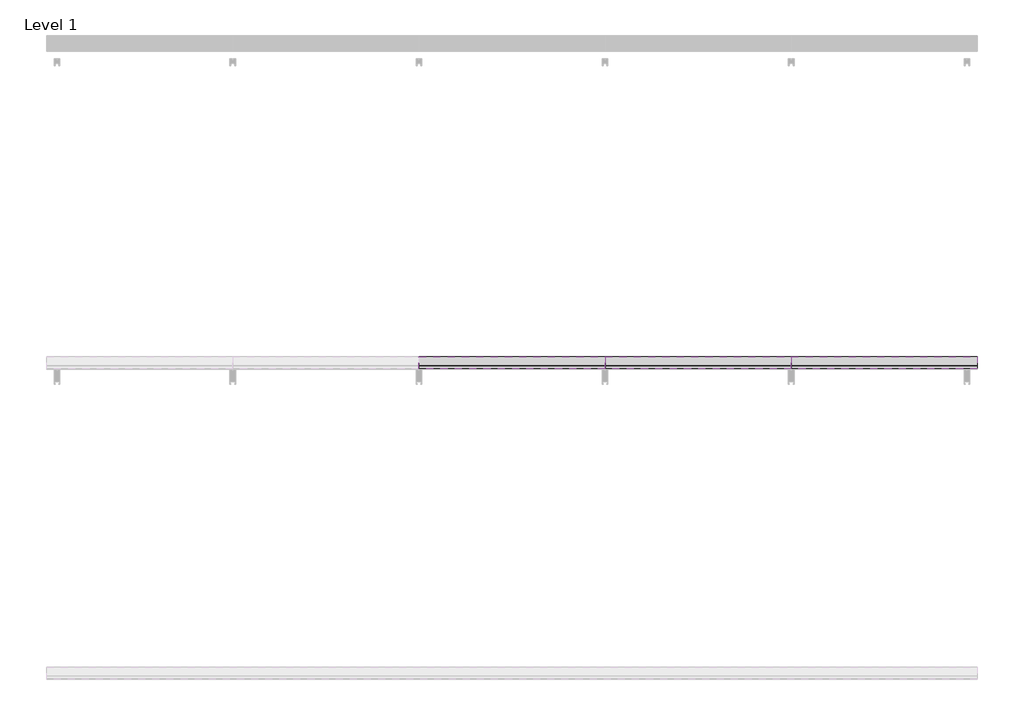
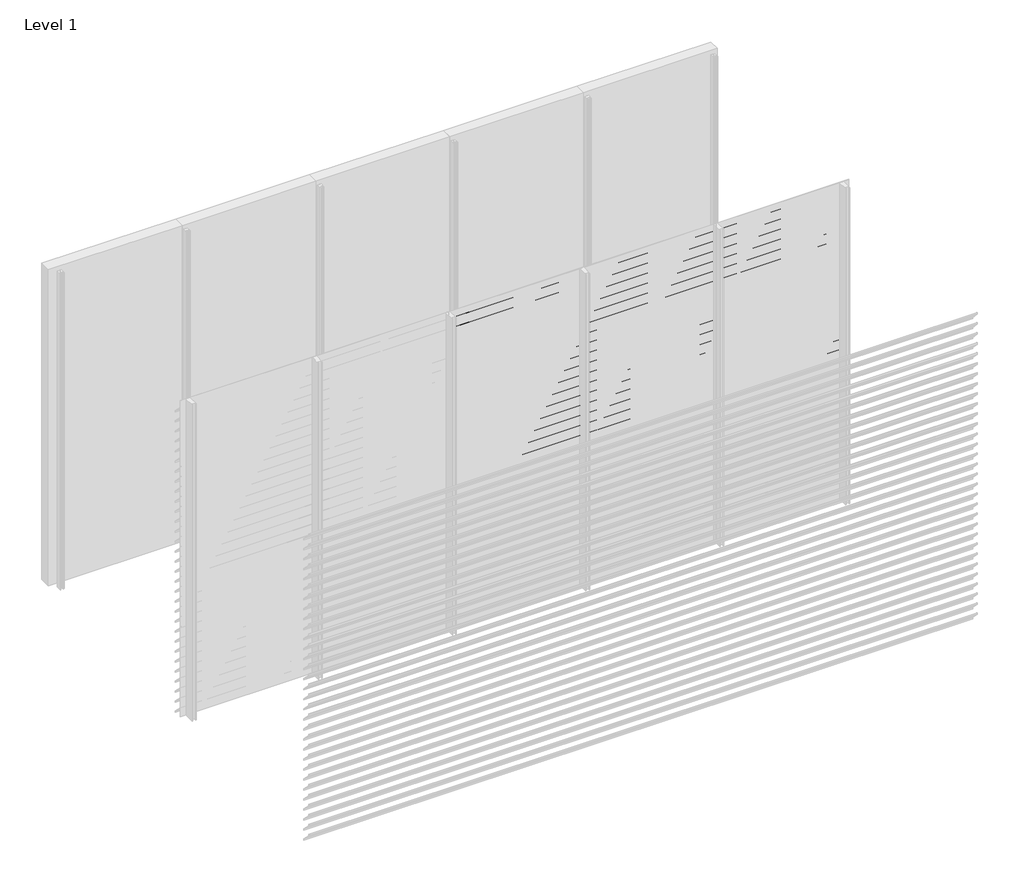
# One storey, part 17 of 24: 88 proxies.
"""IFC4 building model written with IfcOpenShell, lengths in millimetres."""

from ifc_helpers import new_model, si_unit, frame, origin, place, context, project, spatial, polyline, outline, extrude, element, save

model = new_model("IFC4")

# Units and contexts
model_context = context("Model", 3, world=origin())
ifc_project = project(units=[si_unit("LENGTHUNIT", "METRE", prefix="MILLI")], contexts=[model_context])

# Site, building, storey
site = spatial("IfcSite", under=ifc_project)
building = spatial("IfcBuilding", under=site)
storey = spatial("IfcBuildingStorey", under=building, Name="Level 1", Elevation=0.0)

# Proxies
placement = place(None, origin())
element("IfcBuildingElementProxy", 1, Name="Wall Sweeps", at=placement, inside=storey, context=model_context, shape_type="SweptSolid", body=[
    extrude(outline(polyline([(-17920.8, 182.9), (-17922.3, 182.9), (-17922.3, 195.1762333), (-17998.0, 270.4561238), (-17998.0, 285.0), (-17996.5, 285.0), (-17996.5, 271.0798905), (-17920.8, 195.8), (-17920.8, 182.9)])), frame((1200.0, 0.0, 0.0), z_axis=(1.0, 0.0, 0.0), x_axis=(0.0, 1.0, 0.0)), (0.0, 0.0, 1.0), 1200.0),
])
element("IfcBuildingElementProxy", 2, Name="Wall Sweeps", at=placement, inside=storey, context=model_context, shape_type="SweptSolid", body=[
    extrude(outline(polyline([(-17920.8, 87.9), (-17922.3, 87.9), (-17922.3, 100.1762333), (-17998.0, 175.4561238), (-17998.0, 190.0), (-17996.5, 190.0), (-17996.5, 176.0798905), (-17920.8, 100.8), (-17920.8, 87.9)])), frame((1200.0, 0.0, 0.0), z_axis=(1.0, 0.0, 0.0), x_axis=(0.0, 1.0, 0.0)), (0.0, 0.0, 1.0), 1200.0),
])
element("IfcBuildingElementProxy", 3, Name="Wall Sweeps", at=placement, inside=storey, context=model_context, shape_type="SweptSolid", body=[
    extrude(outline(polyline([(-17920.8, -7.1), (-17922.3, -7.1), (-17922.3, 5.1762333), (-17998.0, 80.4561238), (-17998.0, 95.0), (-17996.5, 95.0), (-17996.5, 81.0798905), (-17920.8, 5.8), (-17920.8, -7.1)])), frame((1200.0, 0.0, 0.0), z_axis=(1.0, 0.0, 0.0), x_axis=(0.0, 1.0, 0.0)), (0.0, 0.0, 1.0), 1200.0),
])
element("IfcBuildingElementProxy", 4, Name="Wall Sweeps", at=placement, inside=storey, context=model_context, shape_type="SweptSolid", body=[
    extrude(outline(polyline([(-17920.8, 2842.9), (-17922.3, 2842.9), (-17922.3, 2855.1762333), (-17998.0, 2930.4561238), (-17998.0, 2945.0), (-17996.5, 2945.0), (-17996.5, 2931.0798905), (-17920.8, 2855.8), (-17920.8, 2842.9)])), frame((2400.0, 0.0, 0.0), z_axis=(1.0, 0.0, 0.0), x_axis=(0.0, 1.0, 0.0)), (0.0, 0.0, 1.0), 1200.0),
])
element("IfcBuildingElementProxy", 5, Name="Wall Sweeps", at=placement, inside=storey, context=model_context, shape_type="SweptSolid", body=[
    extrude(outline(polyline([(-17920.8, 2747.9), (-17922.3, 2747.9), (-17922.3, 2760.1762333), (-17998.0, 2835.4561238), (-17998.0, 2850.0), (-17996.5, 2850.0), (-17996.5, 2836.0798905), (-17920.8, 2760.8), (-17920.8, 2747.9)])), frame((2400.0, 0.0, 0.0), z_axis=(1.0, 0.0, 0.0), x_axis=(0.0, 1.0, 0.0)), (0.0, 0.0, 1.0), 1200.0),
])
element("IfcBuildingElementProxy", 6, Name="Wall Sweeps", at=placement, inside=storey, context=model_context, shape_type="SweptSolid", body=[
    extrude(outline(polyline([(-17920.8, 2652.9), (-17922.3, 2652.9), (-17922.3, 2665.1762333), (-17998.0, 2740.4561238), (-17998.0, 2755.0), (-17996.5, 2755.0), (-17996.5, 2741.0798905), (-17920.8, 2665.8), (-17920.8, 2652.9)])), frame((2400.0, 0.0, 0.0), z_axis=(1.0, 0.0, 0.0), x_axis=(0.0, 1.0, 0.0)), (0.0, 0.0, 1.0), 1200.0),
])
element("IfcBuildingElementProxy", 7, Name="Wall Sweeps", at=placement, inside=storey, context=model_context, shape_type="SweptSolid", body=[
    extrude(outline(polyline([(-17920.8, 2557.9), (-17922.3, 2557.9), (-17922.3, 2570.1762333), (-17998.0, 2645.4561238), (-17998.0, 2660.0), (-17996.5, 2660.0), (-17996.5, 2646.0798905), (-17920.8, 2570.8), (-17920.8, 2557.9)])), frame((2400.0, 0.0, 0.0), z_axis=(1.0, 0.0, 0.0), x_axis=(0.0, 1.0, 0.0)), (0.0, 0.0, 1.0), 1200.0),
])
element("IfcBuildingElementProxy", 8, Name="Wall Sweeps", at=placement, inside=storey, context=model_context, shape_type="SweptSolid", body=[
    extrude(outline(polyline([(-17920.8, 2462.9), (-17922.3, 2462.9), (-17922.3, 2475.1762333), (-17998.0, 2550.4561238), (-17998.0, 2565.0), (-17996.5, 2565.0), (-17996.5, 2551.0798905), (-17920.8, 2475.8), (-17920.8, 2462.9)])), frame((2400.0, 0.0, 0.0), z_axis=(1.0, 0.0, 0.0), x_axis=(0.0, 1.0, 0.0)), (0.0, 0.0, 1.0), 1200.0),
])
element("IfcBuildingElementProxy", 9, Name="Wall Sweeps", at=placement, inside=storey, context=model_context, shape_type="SweptSolid", body=[
    extrude(outline(polyline([(-17920.8, 2367.9), (-17922.3, 2367.9), (-17922.3, 2380.1762333), (-17998.0, 2455.4561238), (-17998.0, 2470.0), (-17996.5, 2470.0), (-17996.5, 2456.0798905), (-17920.8, 2380.8), (-17920.8, 2367.9)])), frame((2400.0, 0.0, 0.0), z_axis=(1.0, 0.0, 0.0), x_axis=(0.0, 1.0, 0.0)), (0.0, 0.0, 1.0), 1200.0),
])
element("IfcBuildingElementProxy", 10, Name="Wall Sweeps", at=placement, inside=storey, context=model_context, shape_type="SweptSolid", body=[
    extrude(outline(polyline([(-17920.8, 2272.9), (-17922.3, 2272.9), (-17922.3, 2285.1762333), (-17998.0, 2360.4561238), (-17998.0, 2375.0), (-17996.5, 2375.0), (-17996.5, 2361.0798905), (-17920.8, 2285.8), (-17920.8, 2272.9)])), frame((2400.0, 0.0, 0.0), z_axis=(1.0, 0.0, 0.0), x_axis=(0.0, 1.0, 0.0)), (0.0, 0.0, 1.0), 1200.0),
])
element("IfcBuildingElementProxy", 11, Name="Wall Sweeps", at=placement, inside=storey, context=model_context, shape_type="SweptSolid", body=[
    extrude(outline(polyline([(-17920.8, 2177.9), (-17922.3, 2177.9), (-17922.3, 2190.1762333), (-17998.0, 2265.4561238), (-17998.0, 2280.0), (-17996.5, 2280.0), (-17996.5, 2266.0798905), (-17920.8, 2190.8), (-17920.8, 2177.9)])), frame((2400.0, 0.0, 0.0), z_axis=(1.0, 0.0, 0.0), x_axis=(0.0, 1.0, 0.0)), (0.0, 0.0, 1.0), 1200.0),
])
element("IfcBuildingElementProxy", 12, Name="Wall Sweeps", at=placement, inside=storey, context=model_context, shape_type="SweptSolid", body=[
    extrude(outline(polyline([(-17920.8, 2082.9), (-17922.3, 2082.9), (-17922.3, 2095.1762333), (-17998.0, 2170.4561238), (-17998.0, 2185.0), (-17996.5, 2185.0), (-17996.5, 2171.0798905), (-17920.8, 2095.8), (-17920.8, 2082.9)])), frame((2400.0, 0.0, 0.0), z_axis=(1.0, 0.0, 0.0), x_axis=(0.0, 1.0, 0.0)), (0.0, 0.0, 1.0), 1200.0),
])
element("IfcBuildingElementProxy", 13, Name="Wall Sweeps", at=placement, inside=storey, context=model_context, shape_type="SweptSolid", body=[
    extrude(outline(polyline([(-17920.8, 1987.9), (-17922.3, 1987.9), (-17922.3, 2000.1762333), (-17998.0, 2075.4561238), (-17998.0, 2090.0), (-17996.5, 2090.0), (-17996.5, 2076.0798905), (-17920.8, 2000.8), (-17920.8, 1987.9)])), frame((2400.0, 0.0, 0.0), z_axis=(1.0, 0.0, 0.0), x_axis=(0.0, 1.0, 0.0)), (0.0, 0.0, 1.0), 1200.0),
])
element("IfcBuildingElementProxy", 14, Name="Wall Sweeps", at=placement, inside=storey, context=model_context, shape_type="SweptSolid", body=[
    extrude(outline(polyline([(-17920.8, 1892.9), (-17922.3, 1892.9), (-17922.3, 1905.1762333), (-17998.0, 1980.4561238), (-17998.0, 1995.0), (-17996.5, 1995.0), (-17996.5, 1981.0798905), (-17920.8, 1905.8), (-17920.8, 1892.9)])), frame((2400.0, 0.0, 0.0), z_axis=(1.0, 0.0, 0.0), x_axis=(0.0, 1.0, 0.0)), (0.0, 0.0, 1.0), 1200.0),
])
element("IfcBuildingElementProxy", 15, Name="Wall Sweeps", at=placement, inside=storey, context=model_context, shape_type="SweptSolid", body=[
    extrude(outline(polyline([(-17920.8, 1797.9), (-17922.3, 1797.9), (-17922.3, 1810.1762333), (-17998.0, 1885.4561238), (-17998.0, 1900.0), (-17996.5, 1900.0), (-17996.5, 1886.0798905), (-17920.8, 1810.8), (-17920.8, 1797.9)])), frame((2400.0, 0.0, 0.0), z_axis=(1.0, 0.0, 0.0), x_axis=(0.0, 1.0, 0.0)), (0.0, 0.0, 1.0), 1200.0),
])
element("IfcBuildingElementProxy", 16, Name="Wall Sweeps", at=placement, inside=storey, context=model_context, shape_type="SweptSolid", body=[
    extrude(outline(polyline([(-17920.8, 1702.9), (-17922.3, 1702.9), (-17922.3, 1715.1762333), (-17998.0, 1790.4561238), (-17998.0, 1805.0), (-17996.5, 1805.0), (-17996.5, 1791.0798905), (-17920.8, 1715.8), (-17920.8, 1702.9)])), frame((2400.0, 0.0, 0.0), z_axis=(1.0, 0.0, 0.0), x_axis=(0.0, 1.0, 0.0)), (0.0, 0.0, 1.0), 1200.0),
])
element("IfcBuildingElementProxy", 17, Name="Wall Sweeps", at=placement, inside=storey, context=model_context, shape_type="SweptSolid", body=[
    extrude(outline(polyline([(-17920.8, 1607.9), (-17922.3, 1607.9), (-17922.3, 1620.1762333), (-17998.0, 1695.4561238), (-17998.0, 1710.0), (-17996.5, 1710.0), (-17996.5, 1696.0798905), (-17920.8, 1620.8), (-17920.8, 1607.9)])), frame((2400.0, 0.0, 0.0), z_axis=(1.0, 0.0, 0.0), x_axis=(0.0, 1.0, 0.0)), (0.0, 0.0, 1.0), 1200.0),
])
element("IfcBuildingElementProxy", 18, Name="Wall Sweeps", at=placement, inside=storey, context=model_context, shape_type="SweptSolid", body=[
    extrude(outline(polyline([(-17920.8, 1512.9), (-17922.3, 1512.9), (-17922.3, 1525.1762333), (-17998.0, 1600.4561238), (-17998.0, 1615.0), (-17996.5, 1615.0), (-17996.5, 1601.0798905), (-17920.8, 1525.8), (-17920.8, 1512.9)])), frame((2400.0, 0.0, 0.0), z_axis=(1.0, 0.0, 0.0), x_axis=(0.0, 1.0, 0.0)), (0.0, 0.0, 1.0), 1200.0),
])
element("IfcBuildingElementProxy", 19, Name="Wall Sweeps", at=placement, inside=storey, context=model_context, shape_type="SweptSolid", body=[
    extrude(outline(polyline([(-17920.8, 1417.9), (-17922.3, 1417.9), (-17922.3, 1430.1762333), (-17998.0, 1505.4561238), (-17998.0, 1520.0), (-17996.5, 1520.0), (-17996.5, 1506.0798905), (-17920.8, 1430.8), (-17920.8, 1417.9)])), frame((2400.0, 0.0, 0.0), z_axis=(1.0, 0.0, 0.0), x_axis=(0.0, 1.0, 0.0)), (0.0, 0.0, 1.0), 1200.0),
])
element("IfcBuildingElementProxy", 20, Name="Wall Sweeps", at=placement, inside=storey, context=model_context, shape_type="SweptSolid", body=[
    extrude(outline(polyline([(-17920.8, 1322.9), (-17922.3, 1322.9), (-17922.3, 1335.1762333), (-17998.0, 1410.4561238), (-17998.0, 1425.0), (-17996.5, 1425.0), (-17996.5, 1411.0798905), (-17920.8, 1335.8), (-17920.8, 1322.9)])), frame((2400.0, 0.0, 0.0), z_axis=(1.0, 0.0, 0.0), x_axis=(0.0, 1.0, 0.0)), (0.0, 0.0, 1.0), 1200.0),
])
element("IfcBuildingElementProxy", 21, Name="Wall Sweeps", at=placement, inside=storey, context=model_context, shape_type="SweptSolid", body=[
    extrude(outline(polyline([(-17920.8, 1227.9), (-17922.3, 1227.9), (-17922.3, 1240.1762333), (-17998.0, 1315.4561238), (-17998.0, 1330.0), (-17996.5, 1330.0), (-17996.5, 1316.0798905), (-17920.8, 1240.8), (-17920.8, 1227.9)])), frame((2400.0, 0.0, 0.0), z_axis=(1.0, 0.0, 0.0), x_axis=(0.0, 1.0, 0.0)), (0.0, 0.0, 1.0), 1200.0),
])
element("IfcBuildingElementProxy", 22, Name="Wall Sweeps", at=placement, inside=storey, context=model_context, shape_type="SweptSolid", body=[
    extrude(outline(polyline([(-17920.8, 1132.9), (-17922.3, 1132.9), (-17922.3, 1145.1762333), (-17998.0, 1220.4561238), (-17998.0, 1235.0), (-17996.5, 1235.0), (-17996.5, 1221.0798905), (-17920.8, 1145.8), (-17920.8, 1132.9)])), frame((2400.0, 0.0, 0.0), z_axis=(1.0, 0.0, 0.0), x_axis=(0.0, 1.0, 0.0)), (0.0, 0.0, 1.0), 1200.0),
])
element("IfcBuildingElementProxy", 23, Name="Wall Sweeps", at=placement, inside=storey, context=model_context, shape_type="SweptSolid", body=[
    extrude(outline(polyline([(-17920.8, 1037.9), (-17922.3, 1037.9), (-17922.3, 1050.1762333), (-17998.0, 1125.4561238), (-17998.0, 1140.0), (-17996.5, 1140.0), (-17996.5, 1126.0798905), (-17920.8, 1050.8), (-17920.8, 1037.9)])), frame((2400.0, 0.0, 0.0), z_axis=(1.0, 0.0, 0.0), x_axis=(0.0, 1.0, 0.0)), (0.0, 0.0, 1.0), 1200.0),
])
element("IfcBuildingElementProxy", 24, Name="Wall Sweeps", at=placement, inside=storey, context=model_context, shape_type="SweptSolid", body=[
    extrude(outline(polyline([(-17920.8, 942.9), (-17922.3, 942.9), (-17922.3, 955.1762333), (-17998.0, 1030.4561238), (-17998.0, 1045.0), (-17996.5, 1045.0), (-17996.5, 1031.0798905), (-17920.8, 955.8), (-17920.8, 942.9)])), frame((2400.0, 0.0, 0.0), z_axis=(1.0, 0.0, 0.0), x_axis=(0.0, 1.0, 0.0)), (0.0, 0.0, 1.0), 1200.0),
])
element("IfcBuildingElementProxy", 25, Name="Wall Sweeps", at=placement, inside=storey, context=model_context, shape_type="SweptSolid", body=[
    extrude(outline(polyline([(-17920.8, 847.9), (-17922.3, 847.9), (-17922.3, 860.1762333), (-17998.0, 935.4561238), (-17998.0, 950.0), (-17996.5, 950.0), (-17996.5, 936.0798905), (-17920.8, 860.8), (-17920.8, 847.9)])), frame((2400.0, 0.0, 0.0), z_axis=(1.0, 0.0, 0.0), x_axis=(0.0, 1.0, 0.0)), (0.0, 0.0, 1.0), 1200.0),
])
element("IfcBuildingElementProxy", 26, Name="Wall Sweeps", at=placement, inside=storey, context=model_context, shape_type="SweptSolid", body=[
    extrude(outline(polyline([(-17920.8, 752.9), (-17922.3, 752.9), (-17922.3, 765.1762333), (-17998.0, 840.4561238), (-17998.0, 855.0), (-17996.5, 855.0), (-17996.5, 841.0798905), (-17920.8, 765.8), (-17920.8, 752.9)])), frame((2400.0, 0.0, 0.0), z_axis=(1.0, 0.0, 0.0), x_axis=(0.0, 1.0, 0.0)), (0.0, 0.0, 1.0), 1200.0),
])
element("IfcBuildingElementProxy", 27, Name="Wall Sweeps", at=placement, inside=storey, context=model_context, shape_type="SweptSolid", body=[
    extrude(outline(polyline([(-17920.8, 657.9), (-17922.3, 657.9), (-17922.3, 670.1762333), (-17998.0, 745.4561238), (-17998.0, 760.0), (-17996.5, 760.0), (-17996.5, 746.0798905), (-17920.8, 670.8), (-17920.8, 657.9)])), frame((2400.0, 0.0, 0.0), z_axis=(1.0, 0.0, 0.0), x_axis=(0.0, 1.0, 0.0)), (0.0, 0.0, 1.0), 1200.0),
])
element("IfcBuildingElementProxy", 28, Name="Wall Sweeps", at=placement, inside=storey, context=model_context, shape_type="SweptSolid", body=[
    extrude(outline(polyline([(-17920.8, 562.9), (-17922.3, 562.9), (-17922.3, 575.1762333), (-17998.0, 650.4561238), (-17998.0, 665.0), (-17996.5, 665.0), (-17996.5, 651.0798905), (-17920.8, 575.8), (-17920.8, 562.9)])), frame((2400.0, 0.0, 0.0), z_axis=(1.0, 0.0, 0.0), x_axis=(0.0, 1.0, 0.0)), (0.0, 0.0, 1.0), 1200.0),
])
element("IfcBuildingElementProxy", 29, Name="Wall Sweeps", at=placement, inside=storey, context=model_context, shape_type="SweptSolid", body=[
    extrude(outline(polyline([(-17920.8, 467.9), (-17922.3, 467.9), (-17922.3, 480.1762333), (-17998.0, 555.4561238), (-17998.0, 570.0), (-17996.5, 570.0), (-17996.5, 556.0798905), (-17920.8, 480.8), (-17920.8, 467.9)])), frame((2400.0, 0.0, 0.0), z_axis=(1.0, 0.0, 0.0), x_axis=(0.0, 1.0, 0.0)), (0.0, 0.0, 1.0), 1200.0),
])
element("IfcBuildingElementProxy", 30, Name="Wall Sweeps", at=placement, inside=storey, context=model_context, shape_type="SweptSolid", body=[
    extrude(outline(polyline([(-17920.8, 372.9), (-17922.3, 372.9), (-17922.3, 385.1762333), (-17998.0, 460.4561238), (-17998.0, 475.0), (-17996.5, 475.0), (-17996.5, 461.0798905), (-17920.8, 385.8), (-17920.8, 372.9)])), frame((2400.0, 0.0, 0.0), z_axis=(1.0, 0.0, 0.0), x_axis=(0.0, 1.0, 0.0)), (0.0, 0.0, 1.0), 1200.0),
])
element("IfcBuildingElementProxy", 31, Name="Wall Sweeps", at=placement, inside=storey, context=model_context, shape_type="SweptSolid", body=[
    extrude(outline(polyline([(-17920.8, 277.9), (-17922.3, 277.9), (-17922.3, 290.1762333), (-17998.0, 365.4561238), (-17998.0, 380.0), (-17996.5, 380.0), (-17996.5, 366.0798905), (-17920.8, 290.8), (-17920.8, 277.9)])), frame((2400.0, 0.0, 0.0), z_axis=(1.0, 0.0, 0.0), x_axis=(0.0, 1.0, 0.0)), (0.0, 0.0, 1.0), 1200.0),
])
element("IfcBuildingElementProxy", 32, Name="Wall Sweeps", at=placement, inside=storey, context=model_context, shape_type="SweptSolid", body=[
    extrude(outline(polyline([(-17920.8, 182.9), (-17922.3, 182.9), (-17922.3, 195.1762333), (-17998.0, 270.4561238), (-17998.0, 285.0), (-17996.5, 285.0), (-17996.5, 271.0798905), (-17920.8, 195.8), (-17920.8, 182.9)])), frame((2400.0, 0.0, 0.0), z_axis=(1.0, 0.0, 0.0), x_axis=(0.0, 1.0, 0.0)), (0.0, 0.0, 1.0), 1200.0),
])
element("IfcBuildingElementProxy", 33, Name="Wall Sweeps", at=placement, inside=storey, context=model_context, shape_type="SweptSolid", body=[
    extrude(outline(polyline([(-17920.8, 87.9), (-17922.3, 87.9), (-17922.3, 100.1762333), (-17998.0, 175.4561238), (-17998.0, 190.0), (-17996.5, 190.0), (-17996.5, 176.0798905), (-17920.8, 100.8), (-17920.8, 87.9)])), frame((2400.0, 0.0, 0.0), z_axis=(1.0, 0.0, 0.0), x_axis=(0.0, 1.0, 0.0)), (0.0, 0.0, 1.0), 1200.0),
])
element("IfcBuildingElementProxy", 34, Name="Wall Sweeps", at=placement, inside=storey, context=model_context, shape_type="SweptSolid", body=[
    extrude(outline(polyline([(-17920.8, -7.1), (-17922.3, -7.1), (-17922.3, 5.1762333), (-17998.0, 80.4561238), (-17998.0, 95.0), (-17996.5, 95.0), (-17996.5, 81.0798905), (-17920.8, 5.8), (-17920.8, -7.1)])), frame((2400.0, 0.0, 0.0), z_axis=(1.0, 0.0, 0.0), x_axis=(0.0, 1.0, 0.0)), (0.0, 0.0, 1.0), 1200.0),
])
element("IfcBuildingElementProxy", 35, Name="Wall Sweeps", at=placement, inside=storey, context=model_context, shape_type="SweptSolid", body=[
    extrude(outline(polyline([(-17920.8, 2842.9), (-17922.3, 2842.9), (-17922.3, 2855.1762333), (-17998.0, 2930.4561238), (-17998.0, 2945.0), (-17996.5, 2945.0), (-17996.5, 2931.0798905), (-17920.8, 2855.8), (-17920.8, 2842.9)])), frame((3600.0, 0.0, 0.0), z_axis=(1.0, 0.0, 0.0), x_axis=(0.0, 1.0, 0.0)), (0.0, 0.0, 1.0), 1200.0),
])
element("IfcBuildingElementProxy", 36, Name="Wall Sweeps", at=placement, inside=storey, context=model_context, shape_type="SweptSolid", body=[
    extrude(outline(polyline([(-17920.8, 2747.9), (-17922.3, 2747.9), (-17922.3, 2760.1762333), (-17998.0, 2835.4561238), (-17998.0, 2850.0), (-17996.5, 2850.0), (-17996.5, 2836.0798905), (-17920.8, 2760.8), (-17920.8, 2747.9)])), frame((3600.0, 0.0, 0.0), z_axis=(1.0, 0.0, 0.0), x_axis=(0.0, 1.0, 0.0)), (0.0, 0.0, 1.0), 1200.0),
])
element("IfcBuildingElementProxy", 37, Name="Wall Sweeps", at=placement, inside=storey, context=model_context, shape_type="SweptSolid", body=[
    extrude(outline(polyline([(-17920.8, 2652.9), (-17922.3, 2652.9), (-17922.3, 2665.1762333), (-17998.0, 2740.4561238), (-17998.0, 2755.0), (-17996.5, 2755.0), (-17996.5, 2741.0798905), (-17920.8, 2665.8), (-17920.8, 2652.9)])), frame((3600.0, 0.0, 0.0), z_axis=(1.0, 0.0, 0.0), x_axis=(0.0, 1.0, 0.0)), (0.0, 0.0, 1.0), 1200.0),
])
element("IfcBuildingElementProxy", 38, Name="Wall Sweeps", at=placement, inside=storey, context=model_context, shape_type="SweptSolid", body=[
    extrude(outline(polyline([(-17920.8, 2557.9), (-17922.3, 2557.9), (-17922.3, 2570.1762333), (-17998.0, 2645.4561238), (-17998.0, 2660.0), (-17996.5, 2660.0), (-17996.5, 2646.0798905), (-17920.8, 2570.8), (-17920.8, 2557.9)])), frame((3600.0, 0.0, 0.0), z_axis=(1.0, 0.0, 0.0), x_axis=(0.0, 1.0, 0.0)), (0.0, 0.0, 1.0), 1200.0),
])
element("IfcBuildingElementProxy", 39, Name="Wall Sweeps", at=placement, inside=storey, context=model_context, shape_type="SweptSolid", body=[
    extrude(outline(polyline([(-17920.8, 2462.9), (-17922.3, 2462.9), (-17922.3, 2475.1762333), (-17998.0, 2550.4561238), (-17998.0, 2565.0), (-17996.5, 2565.0), (-17996.5, 2551.0798905), (-17920.8, 2475.8), (-17920.8, 2462.9)])), frame((3600.0, 0.0, 0.0), z_axis=(1.0, 0.0, 0.0), x_axis=(0.0, 1.0, 0.0)), (0.0, 0.0, 1.0), 1200.0),
])
element("IfcBuildingElementProxy", 40, Name="Wall Sweeps", at=placement, inside=storey, context=model_context, shape_type="SweptSolid", body=[
    extrude(outline(polyline([(-17920.8, 2367.9), (-17922.3, 2367.9), (-17922.3, 2380.1762333), (-17998.0, 2455.4561238), (-17998.0, 2470.0), (-17996.5, 2470.0), (-17996.5, 2456.0798905), (-17920.8, 2380.8), (-17920.8, 2367.9)])), frame((3600.0, 0.0, 0.0), z_axis=(1.0, 0.0, 0.0), x_axis=(0.0, 1.0, 0.0)), (0.0, 0.0, 1.0), 1200.0),
])
element("IfcBuildingElementProxy", 41, Name="Wall Sweeps", at=placement, inside=storey, context=model_context, shape_type="SweptSolid", body=[
    extrude(outline(polyline([(-17920.8, 2272.9), (-17922.3, 2272.9), (-17922.3, 2285.1762333), (-17998.0, 2360.4561238), (-17998.0, 2375.0), (-17996.5, 2375.0), (-17996.5, 2361.0798905), (-17920.8, 2285.8), (-17920.8, 2272.9)])), frame((3600.0, 0.0, 0.0), z_axis=(1.0, 0.0, 0.0), x_axis=(0.0, 1.0, 0.0)), (0.0, 0.0, 1.0), 1200.0),
])
element("IfcBuildingElementProxy", 42, Name="Wall Sweeps", at=placement, inside=storey, context=model_context, shape_type="SweptSolid", body=[
    extrude(outline(polyline([(-17920.8, 2177.9), (-17922.3, 2177.9), (-17922.3, 2190.1762333), (-17998.0, 2265.4561238), (-17998.0, 2280.0), (-17996.5, 2280.0), (-17996.5, 2266.0798905), (-17920.8, 2190.8), (-17920.8, 2177.9)])), frame((3600.0, 0.0, 0.0), z_axis=(1.0, 0.0, 0.0), x_axis=(0.0, 1.0, 0.0)), (0.0, 0.0, 1.0), 1200.0),
])
element("IfcBuildingElementProxy", 43, Name="Wall Sweeps", at=placement, inside=storey, context=model_context, shape_type="SweptSolid", body=[
    extrude(outline(polyline([(-17920.8, 2082.9), (-17922.3, 2082.9), (-17922.3, 2095.1762333), (-17998.0, 2170.4561238), (-17998.0, 2185.0), (-17996.5, 2185.0), (-17996.5, 2171.0798905), (-17920.8, 2095.8), (-17920.8, 2082.9)])), frame((3600.0, 0.0, 0.0), z_axis=(1.0, 0.0, 0.0), x_axis=(0.0, 1.0, 0.0)), (0.0, 0.0, 1.0), 1200.0),
])
element("IfcBuildingElementProxy", 44, Name="Wall Sweeps", at=placement, inside=storey, context=model_context, shape_type="SweptSolid", body=[
    extrude(outline(polyline([(-17920.8, 1987.9), (-17922.3, 1987.9), (-17922.3, 2000.1762333), (-17998.0, 2075.4561238), (-17998.0, 2090.0), (-17996.5, 2090.0), (-17996.5, 2076.0798905), (-17920.8, 2000.8), (-17920.8, 1987.9)])), frame((3600.0, 0.0, 0.0), z_axis=(1.0, 0.0, 0.0), x_axis=(0.0, 1.0, 0.0)), (0.0, 0.0, 1.0), 1200.0),
])
element("IfcBuildingElementProxy", 45, Name="Wall Sweeps", at=placement, inside=storey, context=model_context, shape_type="SweptSolid", body=[
    extrude(outline(polyline([(-17920.8, 1892.9), (-17922.3, 1892.9), (-17922.3, 1905.1762333), (-17998.0, 1980.4561238), (-17998.0, 1995.0), (-17996.5, 1995.0), (-17996.5, 1981.0798905), (-17920.8, 1905.8), (-17920.8, 1892.9)])), frame((3600.0, 0.0, 0.0), z_axis=(1.0, 0.0, 0.0), x_axis=(0.0, 1.0, 0.0)), (0.0, 0.0, 1.0), 1200.0),
])
element("IfcBuildingElementProxy", 46, Name="Wall Sweeps", at=placement, inside=storey, context=model_context, shape_type="SweptSolid", body=[
    extrude(outline(polyline([(-17920.8, 1797.9), (-17922.3, 1797.9), (-17922.3, 1810.1762333), (-17998.0, 1885.4561238), (-17998.0, 1900.0), (-17996.5, 1900.0), (-17996.5, 1886.0798905), (-17920.8, 1810.8), (-17920.8, 1797.9)])), frame((3600.0, 0.0, 0.0), z_axis=(1.0, 0.0, 0.0), x_axis=(0.0, 1.0, 0.0)), (0.0, 0.0, 1.0), 1200.0),
])
element("IfcBuildingElementProxy", 47, Name="Wall Sweeps", at=placement, inside=storey, context=model_context, shape_type="SweptSolid", body=[
    extrude(outline(polyline([(-17920.8, 1702.9), (-17922.3, 1702.9), (-17922.3, 1715.1762333), (-17998.0, 1790.4561238), (-17998.0, 1805.0), (-17996.5, 1805.0), (-17996.5, 1791.0798905), (-17920.8, 1715.8), (-17920.8, 1702.9)])), frame((3600.0, 0.0, 0.0), z_axis=(1.0, 0.0, 0.0), x_axis=(0.0, 1.0, 0.0)), (0.0, 0.0, 1.0), 1200.0),
])
element("IfcBuildingElementProxy", 48, Name="Wall Sweeps", at=placement, inside=storey, context=model_context, shape_type="SweptSolid", body=[
    extrude(outline(polyline([(-17920.8, 1607.9), (-17922.3, 1607.9), (-17922.3, 1620.1762333), (-17998.0, 1695.4561238), (-17998.0, 1710.0), (-17996.5, 1710.0), (-17996.5, 1696.0798905), (-17920.8, 1620.8), (-17920.8, 1607.9)])), frame((3600.0, 0.0, 0.0), z_axis=(1.0, 0.0, 0.0), x_axis=(0.0, 1.0, 0.0)), (0.0, 0.0, 1.0), 1200.0),
])
element("IfcBuildingElementProxy", 49, Name="Wall Sweeps", at=placement, inside=storey, context=model_context, shape_type="SweptSolid", body=[
    extrude(outline(polyline([(-17920.8, 1512.9), (-17922.3, 1512.9), (-17922.3, 1525.1762333), (-17998.0, 1600.4561238), (-17998.0, 1615.0), (-17996.5, 1615.0), (-17996.5, 1601.0798905), (-17920.8, 1525.8), (-17920.8, 1512.9)])), frame((3600.0, 0.0, 0.0), z_axis=(1.0, 0.0, 0.0), x_axis=(0.0, 1.0, 0.0)), (0.0, 0.0, 1.0), 1200.0),
])
element("IfcBuildingElementProxy", 50, Name="Wall Sweeps", at=placement, inside=storey, context=model_context, shape_type="SweptSolid", body=[
    extrude(outline(polyline([(-17920.8, 1417.9), (-17922.3, 1417.9), (-17922.3, 1430.1762333), (-17998.0, 1505.4561238), (-17998.0, 1520.0), (-17996.5, 1520.0), (-17996.5, 1506.0798905), (-17920.8, 1430.8), (-17920.8, 1417.9)])), frame((3600.0, 0.0, 0.0), z_axis=(1.0, 0.0, 0.0), x_axis=(0.0, 1.0, 0.0)), (0.0, 0.0, 1.0), 1200.0),
])
element("IfcBuildingElementProxy", 51, Name="Wall Sweeps", at=placement, inside=storey, context=model_context, shape_type="SweptSolid", body=[
    extrude(outline(polyline([(-17920.8, 1322.9), (-17922.3, 1322.9), (-17922.3, 1335.1762333), (-17998.0, 1410.4561238), (-17998.0, 1425.0), (-17996.5, 1425.0), (-17996.5, 1411.0798905), (-17920.8, 1335.8), (-17920.8, 1322.9)])), frame((3600.0, 0.0, 0.0), z_axis=(1.0, 0.0, 0.0), x_axis=(0.0, 1.0, 0.0)), (0.0, 0.0, 1.0), 1200.0),
])
element("IfcBuildingElementProxy", 52, Name="Wall Sweeps", at=placement, inside=storey, context=model_context, shape_type="SweptSolid", body=[
    extrude(outline(polyline([(-17920.8, 1227.9), (-17922.3, 1227.9), (-17922.3, 1240.1762333), (-17998.0, 1315.4561238), (-17998.0, 1330.0), (-17996.5, 1330.0), (-17996.5, 1316.0798905), (-17920.8, 1240.8), (-17920.8, 1227.9)])), frame((3600.0, 0.0, 0.0), z_axis=(1.0, 0.0, 0.0), x_axis=(0.0, 1.0, 0.0)), (0.0, 0.0, 1.0), 1200.0),
])
element("IfcBuildingElementProxy", 53, Name="Wall Sweeps", at=placement, inside=storey, context=model_context, shape_type="SweptSolid", body=[
    extrude(outline(polyline([(-17920.8, 1132.9), (-17922.3, 1132.9), (-17922.3, 1145.1762333), (-17998.0, 1220.4561238), (-17998.0, 1235.0), (-17996.5, 1235.0), (-17996.5, 1221.0798905), (-17920.8, 1145.8), (-17920.8, 1132.9)])), frame((3600.0, 0.0, 0.0), z_axis=(1.0, 0.0, 0.0), x_axis=(0.0, 1.0, 0.0)), (0.0, 0.0, 1.0), 1200.0),
])
element("IfcBuildingElementProxy", 54, Name="Wall Sweeps", at=placement, inside=storey, context=model_context, shape_type="SweptSolid", body=[
    extrude(outline(polyline([(-17920.8, 1037.9), (-17922.3, 1037.9), (-17922.3, 1050.1762333), (-17998.0, 1125.4561238), (-17998.0, 1140.0), (-17996.5, 1140.0), (-17996.5, 1126.0798905), (-17920.8, 1050.8), (-17920.8, 1037.9)])), frame((3600.0, 0.0, 0.0), z_axis=(1.0, 0.0, 0.0), x_axis=(0.0, 1.0, 0.0)), (0.0, 0.0, 1.0), 1200.0),
])
element("IfcBuildingElementProxy", 55, Name="Wall Sweeps", at=placement, inside=storey, context=model_context, shape_type="SweptSolid", body=[
    extrude(outline(polyline([(-17920.8, 942.9), (-17922.3, 942.9), (-17922.3, 955.1762333), (-17998.0, 1030.4561238), (-17998.0, 1045.0), (-17996.5, 1045.0), (-17996.5, 1031.0798905), (-17920.8, 955.8), (-17920.8, 942.9)])), frame((3600.0, 0.0, 0.0), z_axis=(1.0, 0.0, 0.0), x_axis=(0.0, 1.0, 0.0)), (0.0, 0.0, 1.0), 1200.0),
])
element("IfcBuildingElementProxy", 56, Name="Wall Sweeps", at=placement, inside=storey, context=model_context, shape_type="SweptSolid", body=[
    extrude(outline(polyline([(-17920.8, 847.9), (-17922.3, 847.9), (-17922.3, 860.1762333), (-17998.0, 935.4561238), (-17998.0, 950.0), (-17996.5, 950.0), (-17996.5, 936.0798905), (-17920.8, 860.8), (-17920.8, 847.9)])), frame((3600.0, 0.0, 0.0), z_axis=(1.0, 0.0, 0.0), x_axis=(0.0, 1.0, 0.0)), (0.0, 0.0, 1.0), 1200.0),
])
element("IfcBuildingElementProxy", 57, Name="Wall Sweeps", at=placement, inside=storey, context=model_context, shape_type="SweptSolid", body=[
    extrude(outline(polyline([(-17920.8, 752.9), (-17922.3, 752.9), (-17922.3, 765.1762333), (-17998.0, 840.4561238), (-17998.0, 855.0), (-17996.5, 855.0), (-17996.5, 841.0798905), (-17920.8, 765.8), (-17920.8, 752.9)])), frame((3600.0, 0.0, 0.0), z_axis=(1.0, 0.0, 0.0), x_axis=(0.0, 1.0, 0.0)), (0.0, 0.0, 1.0), 1200.0),
])
element("IfcBuildingElementProxy", 58, Name="Wall Sweeps", at=placement, inside=storey, context=model_context, shape_type="SweptSolid", body=[
    extrude(outline(polyline([(-17920.8, 657.9), (-17922.3, 657.9), (-17922.3, 670.1762333), (-17998.0, 745.4561238), (-17998.0, 760.0), (-17996.5, 760.0), (-17996.5, 746.0798905), (-17920.8, 670.8), (-17920.8, 657.9)])), frame((3600.0, 0.0, 0.0), z_axis=(1.0, 0.0, 0.0), x_axis=(0.0, 1.0, 0.0)), (0.0, 0.0, 1.0), 1200.0),
])
element("IfcBuildingElementProxy", 59, Name="Wall Sweeps", at=placement, inside=storey, context=model_context, shape_type="SweptSolid", body=[
    extrude(outline(polyline([(-17920.8, 562.9), (-17922.3, 562.9), (-17922.3, 575.1762333), (-17998.0, 650.4561238), (-17998.0, 665.0), (-17996.5, 665.0), (-17996.5, 651.0798905), (-17920.8, 575.8), (-17920.8, 562.9)])), frame((3600.0, 0.0, 0.0), z_axis=(1.0, 0.0, 0.0), x_axis=(0.0, 1.0, 0.0)), (0.0, 0.0, 1.0), 1200.0),
])
element("IfcBuildingElementProxy", 60, Name="Wall Sweeps", at=placement, inside=storey, context=model_context, shape_type="SweptSolid", body=[
    extrude(outline(polyline([(-17920.8, 467.9), (-17922.3, 467.9), (-17922.3, 480.1762333), (-17998.0, 555.4561238), (-17998.0, 570.0), (-17996.5, 570.0), (-17996.5, 556.0798905), (-17920.8, 480.8), (-17920.8, 467.9)])), frame((3600.0, 0.0, 0.0), z_axis=(1.0, 0.0, 0.0), x_axis=(0.0, 1.0, 0.0)), (0.0, 0.0, 1.0), 1200.0),
])
element("IfcBuildingElementProxy", 61, Name="Wall Sweeps", at=placement, inside=storey, context=model_context, shape_type="SweptSolid", body=[
    extrude(outline(polyline([(-17920.8, 372.9), (-17922.3, 372.9), (-17922.3, 385.1762333), (-17998.0, 460.4561238), (-17998.0, 475.0), (-17996.5, 475.0), (-17996.5, 461.0798905), (-17920.8, 385.8), (-17920.8, 372.9)])), frame((3600.0, 0.0, 0.0), z_axis=(1.0, 0.0, 0.0), x_axis=(0.0, 1.0, 0.0)), (0.0, 0.0, 1.0), 1200.0),
])
element("IfcBuildingElementProxy", 62, Name="Wall Sweeps", at=placement, inside=storey, context=model_context, shape_type="SweptSolid", body=[
    extrude(outline(polyline([(-17920.8, 277.9), (-17922.3, 277.9), (-17922.3, 290.1762333), (-17998.0, 365.4561238), (-17998.0, 380.0), (-17996.5, 380.0), (-17996.5, 366.0798905), (-17920.8, 290.8), (-17920.8, 277.9)])), frame((3600.0, 0.0, 0.0), z_axis=(1.0, 0.0, 0.0), x_axis=(0.0, 1.0, 0.0)), (0.0, 0.0, 1.0), 1200.0),
])
element("IfcBuildingElementProxy", 63, Name="Wall Sweeps", at=placement, inside=storey, context=model_context, shape_type="SweptSolid", body=[
    extrude(outline(polyline([(-17920.8, 182.9), (-17922.3, 182.9), (-17922.3, 195.1762333), (-17998.0, 270.4561238), (-17998.0, 285.0), (-17996.5, 285.0), (-17996.5, 271.0798905), (-17920.8, 195.8), (-17920.8, 182.9)])), frame((3600.0, 0.0, 0.0), z_axis=(1.0, 0.0, 0.0), x_axis=(0.0, 1.0, 0.0)), (0.0, 0.0, 1.0), 1200.0),
])
element("IfcBuildingElementProxy", 64, Name="Wall Sweeps", at=placement, inside=storey, context=model_context, shape_type="SweptSolid", body=[
    extrude(outline(polyline([(-17920.8, 87.9), (-17922.3, 87.9), (-17922.3, 100.1762333), (-17998.0, 175.4561238), (-17998.0, 190.0), (-17996.5, 190.0), (-17996.5, 176.0798905), (-17920.8, 100.8), (-17920.8, 87.9)])), frame((3600.0, 0.0, 0.0), z_axis=(1.0, 0.0, 0.0), x_axis=(0.0, 1.0, 0.0)), (0.0, 0.0, 1.0), 1200.0),
])
element("IfcBuildingElementProxy", 65, Name="Wall Sweeps", at=placement, inside=storey, context=model_context, shape_type="SweptSolid", body=[
    extrude(outline(polyline([(-17920.8, -7.1), (-17922.3, -7.1), (-17922.3, 5.1762333), (-17998.0, 80.4561238), (-17998.0, 95.0), (-17996.5, 95.0), (-17996.5, 81.0798905), (-17920.8, 5.8), (-17920.8, -7.1)])), frame((3600.0, 0.0, 0.0), z_axis=(1.0, 0.0, 0.0), x_axis=(0.0, 1.0, 0.0)), (0.0, 0.0, 1.0), 1200.0),
])
element("IfcBuildingElementProxy", 66, Name="Wall Sweeps", at=placement, inside=storey, context=model_context, shape_type="SweptSolid", body=[
    extrude(outline(polyline([(-17920.8, 2842.9), (-17922.3, 2842.9), (-17922.3, 2855.1762333), (-17998.0, 2930.4561238), (-17998.0, 2945.0), (-17996.5, 2945.0), (-17996.5, 2931.0798905), (-17920.8, 2855.8), (-17920.8, 2842.9)])), frame((4800.0, 0.0, 0.0), z_axis=(1.0, 0.0, 0.0), x_axis=(0.0, 1.0, 0.0)), (0.0, 0.0, 1.0), 1200.0),
])
element("IfcBuildingElementProxy", 67, Name="Wall Sweeps", at=placement, inside=storey, context=model_context, shape_type="SweptSolid", body=[
    extrude(outline(polyline([(-17920.8, 2747.9), (-17922.3, 2747.9), (-17922.3, 2760.1762333), (-17998.0, 2835.4561238), (-17998.0, 2850.0), (-17996.5, 2850.0), (-17996.5, 2836.0798905), (-17920.8, 2760.8), (-17920.8, 2747.9)])), frame((4800.0, 0.0, 0.0), z_axis=(1.0, 0.0, 0.0), x_axis=(0.0, 1.0, 0.0)), (0.0, 0.0, 1.0), 1200.0),
])
element("IfcBuildingElementProxy", 68, Name="Wall Sweeps", at=placement, inside=storey, context=model_context, shape_type="SweptSolid", body=[
    extrude(outline(polyline([(-17920.8, 2652.9), (-17922.3, 2652.9), (-17922.3, 2665.1762333), (-17998.0, 2740.4561238), (-17998.0, 2755.0), (-17996.5, 2755.0), (-17996.5, 2741.0798905), (-17920.8, 2665.8), (-17920.8, 2652.9)])), frame((4800.0, 0.0, 0.0), z_axis=(1.0, 0.0, 0.0), x_axis=(0.0, 1.0, 0.0)), (0.0, 0.0, 1.0), 1200.0),
])
element("IfcBuildingElementProxy", 69, Name="Wall Sweeps", at=placement, inside=storey, context=model_context, shape_type="SweptSolid", body=[
    extrude(outline(polyline([(-17920.8, 2557.9), (-17922.3, 2557.9), (-17922.3, 2570.1762333), (-17998.0, 2645.4561238), (-17998.0, 2660.0), (-17996.5, 2660.0), (-17996.5, 2646.0798905), (-17920.8, 2570.8), (-17920.8, 2557.9)])), frame((4800.0, 0.0, 0.0), z_axis=(1.0, 0.0, 0.0), x_axis=(0.0, 1.0, 0.0)), (0.0, 0.0, 1.0), 1200.0),
])
element("IfcBuildingElementProxy", 70, Name="Wall Sweeps", at=placement, inside=storey, context=model_context, shape_type="SweptSolid", body=[
    extrude(outline(polyline([(-17920.8, 2462.9), (-17922.3, 2462.9), (-17922.3, 2475.1762333), (-17998.0, 2550.4561238), (-17998.0, 2565.0), (-17996.5, 2565.0), (-17996.5, 2551.0798905), (-17920.8, 2475.8), (-17920.8, 2462.9)])), frame((4800.0, 0.0, 0.0), z_axis=(1.0, 0.0, 0.0), x_axis=(0.0, 1.0, 0.0)), (0.0, 0.0, 1.0), 1200.0),
])
element("IfcBuildingElementProxy", 71, Name="Wall Sweeps", at=placement, inside=storey, context=model_context, shape_type="SweptSolid", body=[
    extrude(outline(polyline([(-17920.8, 2367.9), (-17922.3, 2367.9), (-17922.3, 2380.1762333), (-17998.0, 2455.4561238), (-17998.0, 2470.0), (-17996.5, 2470.0), (-17996.5, 2456.0798905), (-17920.8, 2380.8), (-17920.8, 2367.9)])), frame((4800.0, 0.0, 0.0), z_axis=(1.0, 0.0, 0.0), x_axis=(0.0, 1.0, 0.0)), (0.0, 0.0, 1.0), 1200.0),
])
element("IfcBuildingElementProxy", 72, Name="Wall Sweeps", at=placement, inside=storey, context=model_context, shape_type="SweptSolid", body=[
    extrude(outline(polyline([(-17920.8, 2272.9), (-17922.3, 2272.9), (-17922.3, 2285.1762333), (-17998.0, 2360.4561238), (-17998.0, 2375.0), (-17996.5, 2375.0), (-17996.5, 2361.0798905), (-17920.8, 2285.8), (-17920.8, 2272.9)])), frame((4800.0, 0.0, 0.0), z_axis=(1.0, 0.0, 0.0), x_axis=(0.0, 1.0, 0.0)), (0.0, 0.0, 1.0), 1200.0),
])
element("IfcBuildingElementProxy", 73, Name="Wall Sweeps", at=placement, inside=storey, context=model_context, shape_type="SweptSolid", body=[
    extrude(outline(polyline([(-17920.8, 2177.9), (-17922.3, 2177.9), (-17922.3, 2190.1762333), (-17998.0, 2265.4561238), (-17998.0, 2280.0), (-17996.5, 2280.0), (-17996.5, 2266.0798905), (-17920.8, 2190.8), (-17920.8, 2177.9)])), frame((4800.0, 0.0, 0.0), z_axis=(1.0, 0.0, 0.0), x_axis=(0.0, 1.0, 0.0)), (0.0, 0.0, 1.0), 1200.0),
])
element("IfcBuildingElementProxy", 74, Name="Wall Sweeps", at=placement, inside=storey, context=model_context, shape_type="SweptSolid", body=[
    extrude(outline(polyline([(-17920.8, 2082.9), (-17922.3, 2082.9), (-17922.3, 2095.1762333), (-17998.0, 2170.4561238), (-17998.0, 2185.0), (-17996.5, 2185.0), (-17996.5, 2171.0798905), (-17920.8, 2095.8), (-17920.8, 2082.9)])), frame((4800.0, 0.0, 0.0), z_axis=(1.0, 0.0, 0.0), x_axis=(0.0, 1.0, 0.0)), (0.0, 0.0, 1.0), 1200.0),
])
element("IfcBuildingElementProxy", 75, Name="Wall Sweeps", at=placement, inside=storey, context=model_context, shape_type="SweptSolid", body=[
    extrude(outline(polyline([(-17920.8, 1987.9), (-17922.3, 1987.9), (-17922.3, 2000.1762333), (-17998.0, 2075.4561238), (-17998.0, 2090.0), (-17996.5, 2090.0), (-17996.5, 2076.0798905), (-17920.8, 2000.8), (-17920.8, 1987.9)])), frame((4800.0, 0.0, 0.0), z_axis=(1.0, 0.0, 0.0), x_axis=(0.0, 1.0, 0.0)), (0.0, 0.0, 1.0), 1200.0),
])
element("IfcBuildingElementProxy", 76, Name="Wall Sweeps", at=placement, inside=storey, context=model_context, shape_type="SweptSolid", body=[
    extrude(outline(polyline([(-17920.8, 1892.9), (-17922.3, 1892.9), (-17922.3, 1905.1762333), (-17998.0, 1980.4561238), (-17998.0, 1995.0), (-17996.5, 1995.0), (-17996.5, 1981.0798905), (-17920.8, 1905.8), (-17920.8, 1892.9)])), frame((4800.0, 0.0, 0.0), z_axis=(1.0, 0.0, 0.0), x_axis=(0.0, 1.0, 0.0)), (0.0, 0.0, 1.0), 1200.0),
])
element("IfcBuildingElementProxy", 77, Name="Wall Sweeps", at=placement, inside=storey, context=model_context, shape_type="SweptSolid", body=[
    extrude(outline(polyline([(-17920.8, 1797.9), (-17922.3, 1797.9), (-17922.3, 1810.1762333), (-17998.0, 1885.4561238), (-17998.0, 1900.0), (-17996.5, 1900.0), (-17996.5, 1886.0798905), (-17920.8, 1810.8), (-17920.8, 1797.9)])), frame((4800.0, 0.0, 0.0), z_axis=(1.0, 0.0, 0.0), x_axis=(0.0, 1.0, 0.0)), (0.0, 0.0, 1.0), 1200.0),
])
element("IfcBuildingElementProxy", 78, Name="Wall Sweeps", at=placement, inside=storey, context=model_context, shape_type="SweptSolid", body=[
    extrude(outline(polyline([(-17920.8, 1702.9), (-17922.3, 1702.9), (-17922.3, 1715.1762333), (-17998.0, 1790.4561238), (-17998.0, 1805.0), (-17996.5, 1805.0), (-17996.5, 1791.0798905), (-17920.8, 1715.8), (-17920.8, 1702.9)])), frame((4800.0, 0.0, 0.0), z_axis=(1.0, 0.0, 0.0), x_axis=(0.0, 1.0, 0.0)), (0.0, 0.0, 1.0), 1200.0),
])
element("IfcBuildingElementProxy", 79, Name="Wall Sweeps", at=placement, inside=storey, context=model_context, shape_type="SweptSolid", body=[
    extrude(outline(polyline([(-17920.8, 1607.9), (-17922.3, 1607.9), (-17922.3, 1620.1762333), (-17998.0, 1695.4561238), (-17998.0, 1710.0), (-17996.5, 1710.0), (-17996.5, 1696.0798905), (-17920.8, 1620.8), (-17920.8, 1607.9)])), frame((4800.0, 0.0, 0.0), z_axis=(1.0, 0.0, 0.0), x_axis=(0.0, 1.0, 0.0)), (0.0, 0.0, 1.0), 1200.0),
])
element("IfcBuildingElementProxy", 80, Name="Wall Sweeps", at=placement, inside=storey, context=model_context, shape_type="SweptSolid", body=[
    extrude(outline(polyline([(-17920.8, 1512.9), (-17922.3, 1512.9), (-17922.3, 1525.1762333), (-17998.0, 1600.4561238), (-17998.0, 1615.0), (-17996.5, 1615.0), (-17996.5, 1601.0798905), (-17920.8, 1525.8), (-17920.8, 1512.9)])), frame((4800.0, 0.0, 0.0), z_axis=(1.0, 0.0, 0.0), x_axis=(0.0, 1.0, 0.0)), (0.0, 0.0, 1.0), 1200.0),
])
element("IfcBuildingElementProxy", 81, Name="Wall Sweeps", at=placement, inside=storey, context=model_context, shape_type="SweptSolid", body=[
    extrude(outline(polyline([(-17920.8, 1417.9), (-17922.3, 1417.9), (-17922.3, 1430.1762333), (-17998.0, 1505.4561238), (-17998.0, 1520.0), (-17996.5, 1520.0), (-17996.5, 1506.0798905), (-17920.8, 1430.8), (-17920.8, 1417.9)])), frame((4800.0, 0.0, 0.0), z_axis=(1.0, 0.0, 0.0), x_axis=(0.0, 1.0, 0.0)), (0.0, 0.0, 1.0), 1200.0),
])
element("IfcBuildingElementProxy", 82, Name="Wall Sweeps", at=placement, inside=storey, context=model_context, shape_type="SweptSolid", body=[
    extrude(outline(polyline([(-17920.8, 1322.9), (-17922.3, 1322.9), (-17922.3, 1335.1762333), (-17998.0, 1410.4561238), (-17998.0, 1425.0), (-17996.5, 1425.0), (-17996.5, 1411.0798905), (-17920.8, 1335.8), (-17920.8, 1322.9)])), frame((4800.0, 0.0, 0.0), z_axis=(1.0, 0.0, 0.0), x_axis=(0.0, 1.0, 0.0)), (0.0, 0.0, 1.0), 1200.0),
])
element("IfcBuildingElementProxy", 83, Name="Wall Sweeps", at=placement, inside=storey, context=model_context, shape_type="SweptSolid", body=[
    extrude(outline(polyline([(-17920.8, 1227.9), (-17922.3, 1227.9), (-17922.3, 1240.1762333), (-17998.0, 1315.4561238), (-17998.0, 1330.0), (-17996.5, 1330.0), (-17996.5, 1316.0798905), (-17920.8, 1240.8), (-17920.8, 1227.9)])), frame((4800.0, 0.0, 0.0), z_axis=(1.0, 0.0, 0.0), x_axis=(0.0, 1.0, 0.0)), (0.0, 0.0, 1.0), 1200.0),
])
element("IfcBuildingElementProxy", 84, Name="Wall Sweeps", at=placement, inside=storey, context=model_context, shape_type="SweptSolid", body=[
    extrude(outline(polyline([(-17920.8, 1132.9), (-17922.3, 1132.9), (-17922.3, 1145.1762333), (-17998.0, 1220.4561238), (-17998.0, 1235.0), (-17996.5, 1235.0), (-17996.5, 1221.0798905), (-17920.8, 1145.8), (-17920.8, 1132.9)])), frame((4800.0, 0.0, 0.0), z_axis=(1.0, 0.0, 0.0), x_axis=(0.0, 1.0, 0.0)), (0.0, 0.0, 1.0), 1200.0),
])
element("IfcBuildingElementProxy", 85, Name="Wall Sweeps", at=placement, inside=storey, context=model_context, shape_type="SweptSolid", body=[
    extrude(outline(polyline([(-17920.8, 1037.9), (-17922.3, 1037.9), (-17922.3, 1050.1762333), (-17998.0, 1125.4561238), (-17998.0, 1140.0), (-17996.5, 1140.0), (-17996.5, 1126.0798905), (-17920.8, 1050.8), (-17920.8, 1037.9)])), frame((4800.0, 0.0, 0.0), z_axis=(1.0, 0.0, 0.0), x_axis=(0.0, 1.0, 0.0)), (0.0, 0.0, 1.0), 1200.0),
])
element("IfcBuildingElementProxy", 86, Name="Wall Sweeps", at=placement, inside=storey, context=model_context, shape_type="SweptSolid", body=[
    extrude(outline(polyline([(-17920.8, 942.9), (-17922.3, 942.9), (-17922.3, 955.1762333), (-17998.0, 1030.4561238), (-17998.0, 1045.0), (-17996.5, 1045.0), (-17996.5, 1031.0798905), (-17920.8, 955.8), (-17920.8, 942.9)])), frame((4800.0, 0.0, 0.0), z_axis=(1.0, 0.0, 0.0), x_axis=(0.0, 1.0, 0.0)), (0.0, 0.0, 1.0), 1200.0),
])
element("IfcBuildingElementProxy", 87, Name="Wall Sweeps", at=placement, inside=storey, context=model_context, shape_type="SweptSolid", body=[
    extrude(outline(polyline([(-17920.8, 847.9), (-17922.3, 847.9), (-17922.3, 860.1762333), (-17998.0, 935.4561238), (-17998.0, 950.0), (-17996.5, 950.0), (-17996.5, 936.0798905), (-17920.8, 860.8), (-17920.8, 847.9)])), frame((4800.0, 0.0, 0.0), z_axis=(1.0, 0.0, 0.0), x_axis=(0.0, 1.0, 0.0)), (0.0, 0.0, 1.0), 1200.0),
])
element("IfcBuildingElementProxy", 88, Name="Wall Sweeps", at=placement, inside=storey, context=model_context, shape_type="SweptSolid", body=[
    extrude(outline(polyline([(-17920.8, 752.9), (-17922.3, 752.9), (-17922.3, 765.1762333), (-17998.0, 840.4561238), (-17998.0, 855.0), (-17996.5, 855.0), (-17996.5, 841.0798905), (-17920.8, 765.8), (-17920.8, 752.9)])), frame((4800.0, 0.0, 0.0), z_axis=(1.0, 0.0, 0.0), x_axis=(0.0, 1.0, 0.0)), (0.0, 0.0, 1.0), 1200.0),
])

save(model, "model.ifc")
